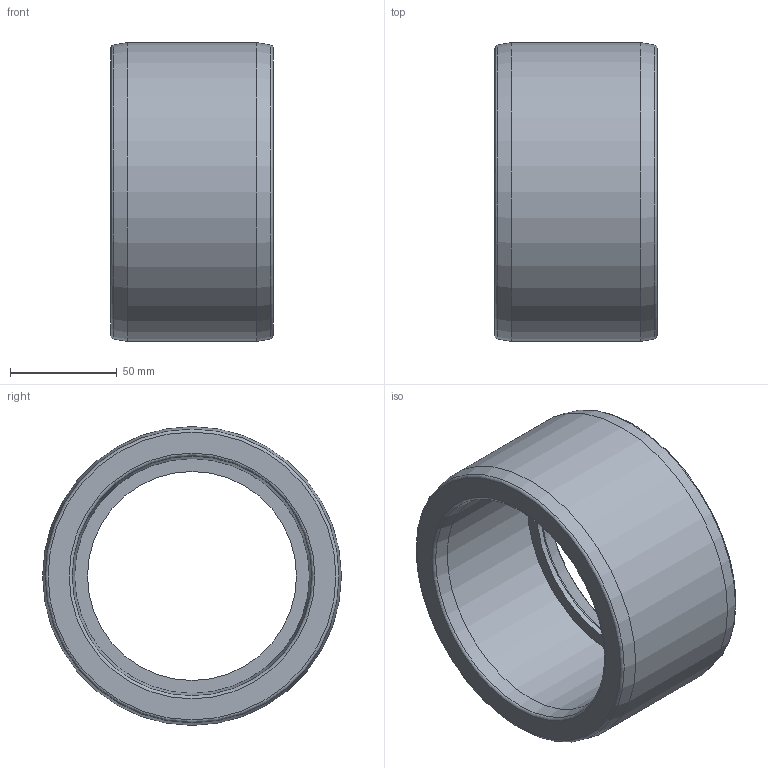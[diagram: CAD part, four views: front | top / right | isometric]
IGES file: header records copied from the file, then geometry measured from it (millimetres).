
Global section: file name: 050900140110.ipt; native system: Autodesk Inventor 2015; preprocessor: unknown; author: KIM; date: 20171207.165136; units: millimetre
Bounding box: 76 x 140 x 140 mm (x, y, z)
Volume: 454017.5 mm3; surface area: 71138.5 mm2
Topology: 1 solids, 1 shells, 15 faces, 43 edges, 31 vertices
Faces by surface type: revolution 9, plane 3, cone 2, cylinder 1
Full cylindrical faces by diameter (mm): 140 x1
